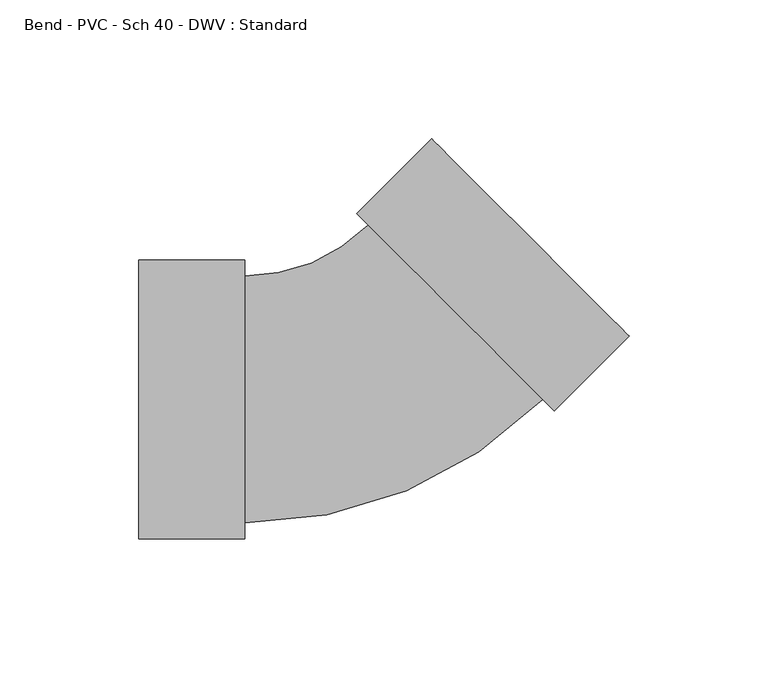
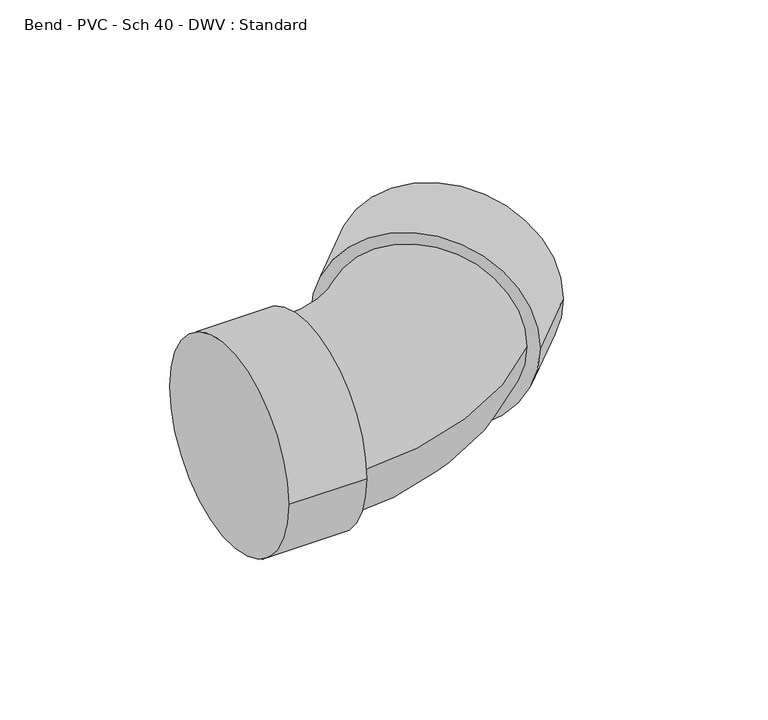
"""IFC4 building model written with IfcOpenShell, lengths in millimetres: pipe fitting geometry, Bend - PVC - Sch 40 - DWV : Standard."""

from ifc_helpers import new_model, si_unit, point, frame, origin, place, context, project, spatial, circle_curve, ellipse_curve, trimmed, source, transform, mapped, element, save
from ifc_brep_helpers import plane_surface, cylinder_surface, revolved_surface, advanced_brep


def bend_pvc_sch_40_dwv_standard_db659cf1(model_context):
    return source(origin(), model_context, "Body", "AdvancedBrep", [
        advanced_brep(
        [(-82.55, -50.2666, 0.0), (-82.55, 50.2666, 0.0), (-44.45, -50.2666, 0.0), (-44.45, 50.2666, 0.0), (-44.45, -44.45, 0.0), (-44.45, 44.45, 0.0), (0.0, 62.8617928, 0.0), (62.8617928, 0.0, 0.0), (66.9747502, -4.1129573, 0.0), (-4.1129573, 66.9747502, 0.0), (93.9155185, 22.8278111, 0.0), (22.8278111, 93.9155185, 0.0)],
        [
            (0, 1, circle_curve(frame((-82.55, 0.0, 0.0), z_axis=(-1.0, 0.0, 0.0), x_axis=(0.0, 1.0, 0.0)), 50.2666)),
            (1, 0, circle_curve(frame((-82.55, 0.0, 0.0), z_axis=(-1.0, 0.0, 0.0), x_axis=(0.0, 1.0, 0.0)), 50.2666)),
            (2, 3, circle_curve(frame((-44.45, 0.0, 0.0), z_axis=(1.0, 0.0, 0.0), x_axis=(0.0, 1.0, 0.0)), 50.2666)),
            (3, 2, circle_curve(frame((-44.45, 0.0, 0.0), z_axis=(1.0, 0.0, 0.0), x_axis=(0.0, 1.0, 0.0)), 50.2666)),
            (4, 5, circle_curve(frame((-44.45, 0.0, 0.0), z_axis=(-1.0, 0.0, 0.0), x_axis=(0.0, 1.0, 0.0)), 44.45)),
            (5, 4, circle_curve(frame((-44.45, 0.0, 0.0), z_axis=(-1.0, 0.0, 0.0), x_axis=(0.0, 1.0, 0.0)), 44.45)),
            (0, 2),
            (3, 1),
            (6, 5, circle_curve(frame((-44.45, 107.3117928, 0.0), z_axis=(0.0, 0.0, -1.0), x_axis=(0.0, -1.0, 0.0)), 62.8617928)),
            (4, 7, circle_curve(frame((-44.45, 107.3117928, 0.0), z_axis=(0.0, 0.0, 1.0), x_axis=(0.0, -1.0, 0.0)), 151.7617928)),
            (7, 6, circle_curve(frame((31.4308964, 31.4308964, 0.0), z_axis=(-0.7071067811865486, -0.7071067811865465, 0.0), x_axis=(-0.7071067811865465, 0.7071067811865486, 0.0)), 44.45)),
            (6, 7, circle_curve(frame((31.4308964, 31.4308964, 0.0), z_axis=(-0.7071067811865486, -0.7071067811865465, 0.0), x_axis=(-0.7071067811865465, 0.7071067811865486, 0.0)), 44.45)),
            (8, 9, circle_curve(frame((31.4308964, 31.4308964, 0.0), z_axis=(-0.7071067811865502, -0.7071067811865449, 0.0), x_axis=(-0.7071067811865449, 0.7071067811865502, 0.0)), 50.2666)),
            (9, 8, circle_curve(frame((31.4308964, 31.4308964, 0.0), z_axis=(-0.7071067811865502, -0.7071067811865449, 0.0), x_axis=(-0.7071067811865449, 0.7071067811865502, 0.0)), 50.2666)),
            (10, 11, circle_curve(frame((58.3716648, 58.3716648, 0.0), z_axis=(0.7071067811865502, 0.7071067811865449, 0.0), x_axis=(-0.7071067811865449, 0.7071067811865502, 0.0)), 50.2666)),
            (11, 10, circle_curve(frame((58.3716648, 58.3716648, 0.0), z_axis=(0.7071067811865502, 0.7071067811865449, 0.0), x_axis=(-0.7071067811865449, 0.7071067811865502, 0.0)), 50.2666)),
            (8, 10),
            (11, 9),
        ],
        [
            plane_surface(frame((-82.55, 0.0, 0.0), z_axis=(-1.0, 0.0, 0.0), x_axis=(0.0, 0.0, 1.0))),
            plane_surface(frame((-44.45, 0.0, 0.0), z_axis=(1.0, 0.0, 0.0), x_axis=(0.0, 0.0, 1.0))),
            cylinder_surface(frame((-82.55, 0.0, 0.0), z_axis=(-1.0, 0.0, 0.0), x_axis=(0.0, 1.0, 0.0)), 50.2666),
            revolved_surface(trimmed(ellipse_curve(frame((-44.45, 0.0, 0.0), z_axis=(-1.0, 0.0, 0.0), x_axis=(0.0, 1.0, 0.0)), 44.45, 44.45), [point((-44.45, -44.45, 0.0))], [point((-44.45, 44.45, 0.0))], True, "CARTESIAN"), (-44.45, 107.3117928, 0.0), (0.0, 0.0, 1.0)),
            revolved_surface(trimmed(ellipse_curve(frame((-44.45, 0.0, 0.0), z_axis=(-1.0, 0.0, 0.0), x_axis=(0.0, 1.0, 0.0)), 44.45, 44.45), [point((-44.45, 44.45, 0.0))], [point((-44.45, -44.45, 0.0))], True, "CARTESIAN"), (-44.45, 107.3117928, 0.0), (0.0, 0.0, 1.0)),
            plane_surface(frame((31.4308964, 31.4308964, 0.0), z_axis=(-0.7071067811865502, -0.7071067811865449, 0.0), x_axis=(0.0, 0.0, 1.0))),
            plane_surface(frame((58.3716648, 58.3716648, 0.0), z_axis=(0.7071067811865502, 0.7071067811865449, 0.0), x_axis=(0.0, 0.0, 1.0))),
            cylinder_surface(frame((31.4308964, 31.4308964, 0.0), z_axis=(-0.7071067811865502, -0.7071067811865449, 0.0), x_axis=(-0.7071067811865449, 0.7071067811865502, 0.0)), 50.2666),
        ],
        [
            (0, [[1, 2]]),
            (1, [[3, 4], [5, 6]]),
            (2, [[-1, 7, -4, 8]]),
            (2, [[-2, -8, -3, -7]]),
            (3, [[9, -5, 10, 11]]),
            (4, [[-9, 12, -10, -6]]),
            (5, [[13, 14], [-11, -12]]),
            (6, [[15, 16]]),
            (7, [[-13, 17, -16, 18]]),
            (7, [[-14, -18, -15, -17]]),
        ],
    ),
    ])


if __name__ == "__main__":
    model = new_model("IFC4")
    model_context = context("Model", 3, world=origin())
    ifc_project = project(units=[si_unit("LENGTHUNIT", "METRE", prefix="MILLI")], contexts=[model_context])
    site = spatial("IfcSite", under=ifc_project)
    building = spatial("IfcBuilding", under=site)
    placement = place(None, origin())
    bend_pvc_sch_40_dwv_standard_shape = bend_pvc_sch_40_dwv_standard_db659cf1(model_context)
    element("IfcPipeFitting", 1, ObjectType="Bend - PVC - Sch 40 - DWV : Standard", at=placement, inside=building, context=model_context, shape_type="MappedRepresentation", body=[
        mapped(bend_pvc_sch_40_dwv_standard_shape, transform((0.0, 0.0, 0.0), x_axis=(1.0, 0.0, 0.0), y_axis=(0.0, 1.0, 0.0), z_axis=(0.0, 0.0, 1.0))),
    ])
    save(model, "model.ifc")
